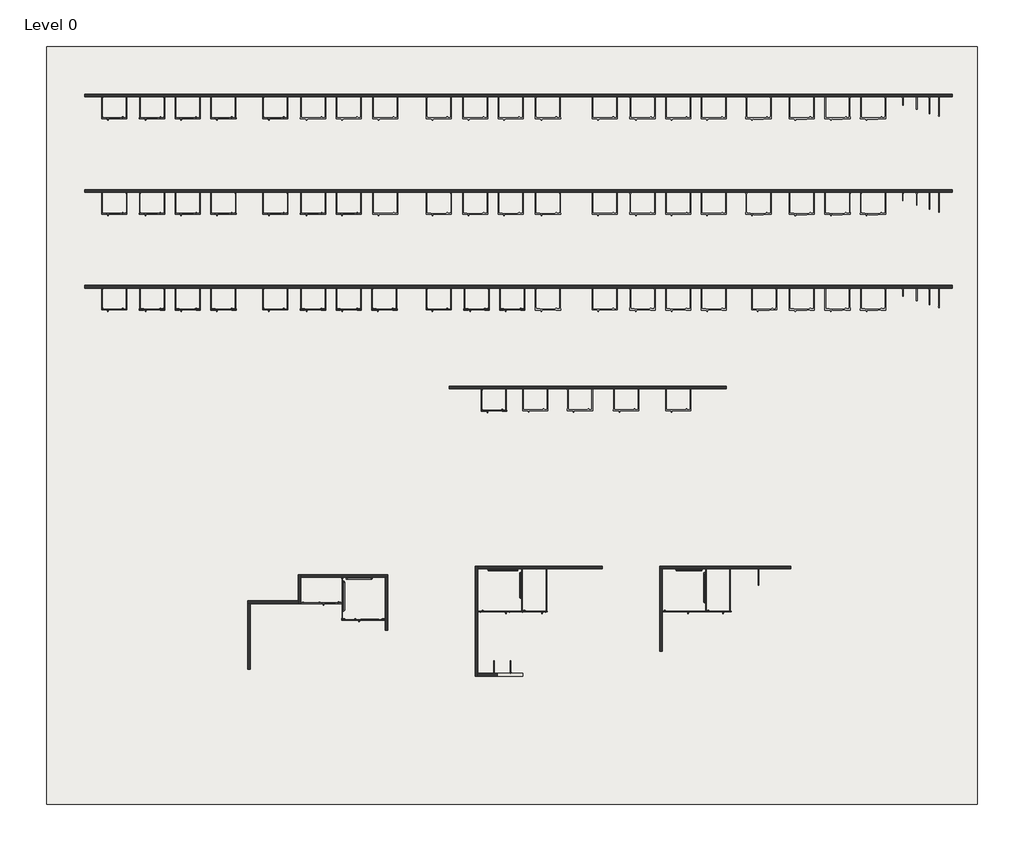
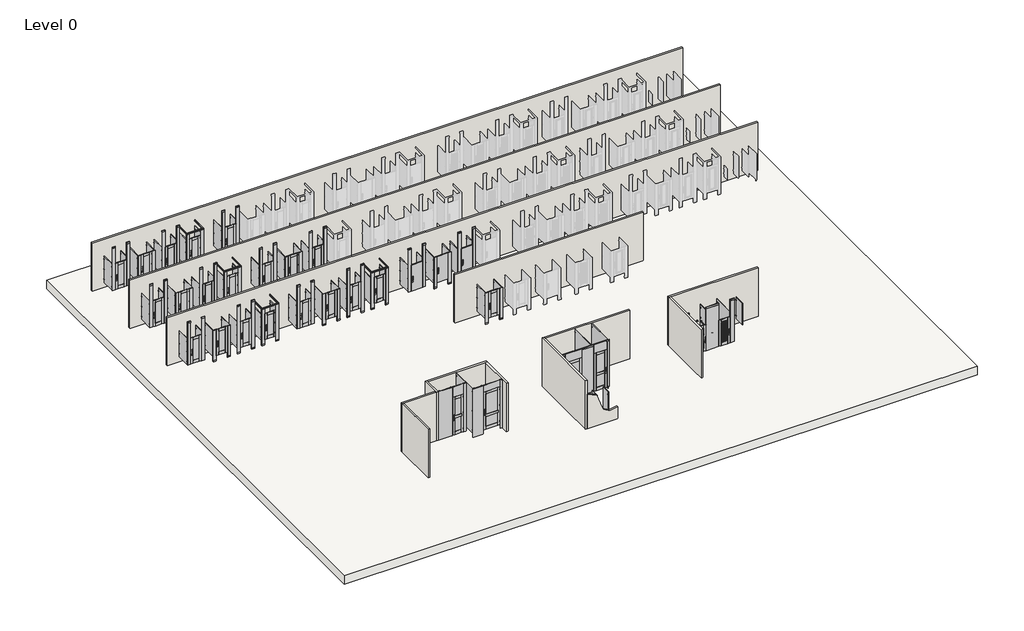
# One storey, part 1 of 2: 36 proxies, 14 walls, 1 slab.
"""IFC4 building model written with IfcOpenShell, lengths in millimetres."""

from ifc_helpers import new_model, si_unit, point, frame, frame_2d, origin, origin_with_axes, place, context, project, spatial, polyline, circle_curve, trimmed, segment, composite_curve, outline, extrude, faceted_brep, transform, mapped, element, save
from components import specialty_equipment_d96a6f38, specialty_equipment_1c9599e0, specialty_equipment_3137e77c, specialty_equipment_eb44fc01, compact_laminate_ceiling_hung_captured_panel_door_a59acb82, compact_laminate_ceiling_hung_door_lite_door_494fc37a, compact_laminate_floor_mounted_captured_panel_door_717636e4, compact_laminate_floor_mounted_door_lite_door_0cbb2f35, compact_laminate_floor_to_ceiling_captured_panel_door_38d99a87, compact_laminate_floor_to_ceiling_captured_panel_door_44a3a528, compact_laminate_floor_to_ceiling_captured_panel_door_c3280af2, compact_laminate_floor_to_ceiling_door_lite_door_47c44b2a, proxy_7e4ca562, grab_bar_grab_bar_8bd8c0e1, grab_bar_grab_bar_2_6b204c29, high_pressure_laminate_ceiling_hung_captured_panel_door_f9b3bd38, high_pressure_laminate_ceiling_hung_door_lite_door_4c4385df, high_pressure_laminate_ceiling_hung_louver_door_7c43876e, high_pressure_laminate_ceiling_hung_louver_door_24030e85, high_pressure_laminate_floor_mounted_captured_panel_door_a674d35c, urinal_partition_24x48_73d95201, high_pressure_laminate_ceiling_hung_flat_panel_door_457f9348, high_pressure_laminate_floor_mounted_door_lite_door_59ee385d, high_pressure_laminate_floor_mounted_flat_panel_door_f86224eb, specialty_equipment_fc4f7036, wood_veneer_floor_to_ceiling_door_lite_door_d23d4a8c, wood_veneer_floor_to_ceiling_door_lite_door_7aed59c0, specialty_equipment_aeacbdde

model = new_model("IFC4")

# Units and contexts
model_context = context("Model", 3, world=origin())
ifc_project = project(units=[si_unit("LENGTHUNIT", "METRE", prefix="MILLI")], contexts=[model_context])

# Site, building, storey
site = spatial("IfcSite", under=ifc_project)
building = spatial("IfcBuilding", under=site)
storey = spatial("IfcBuildingStorey", under=building, Name="Level 0", Elevation=0.0)

# Proxies
placement = place(None, origin())
specialty_equipment_shape = specialty_equipment_d96a6f38(model_context)
element("IfcBuildingElementProxy", 1, Name="Toilet-Partition_Ironwood-Mfg_High-Pressure-Laminate : High Pressure Laminate - Floor to Ceiling - Captured Panel Door", ObjectType="Toilet-Partition_Ironwood-Mfg_High-Pressure-Laminate : High Pressure Laminate - Floor to Ceiling - Captured Panel Door", at=placement, inside=storey, context=model_context, shape_type="MappedRepresentation", body=[
    mapped(specialty_equipment_shape, transform((-12139.1773474, 12246.3462325, 0.0), x_axis=(1.0, 0.0, 0.0), y_axis=(0.0, 1.0, 0.0), z_axis=(0.0, 0.0, 1.0))),
])
specialty_equipment_2_shape = specialty_equipment_1c9599e0(model_context)
element("IfcBuildingElementProxy", 2, Name="Toilet-Partition_Ironwood-Mfg_High-Pressure-Laminate : High Pressure Laminate - Headrail Braced - Captured Panel Door", ObjectType="Toilet-Partition_Ironwood-Mfg_High-Pressure-Laminate : High Pressure Laminate - Headrail Braced - Captured Panel Door", at=placement, inside=storey, context=model_context, shape_type="MappedRepresentation", body=[
    mapped(specialty_equipment_2_shape, transform((-10843.7773474, 12246.3462325, 0.0), x_axis=(1.0, 0.0, 0.0), y_axis=(0.0, 1.0, 0.0), z_axis=(0.0, 0.0, 1.0))),
])
specialty_equipment_3_shape = specialty_equipment_3137e77c(model_context)
element("IfcBuildingElementProxy", 3, Name="Toilet-Partition_Ironwood-Mfg_Compact-Laminate : Compact Laminate - Headrail Braced - Captured Panel Door", ObjectType="Toilet-Partition_Ironwood-Mfg_Compact-Laminate : Compact Laminate - Headrail Braced - Captured Panel Door", at=placement, inside=storey, context=model_context, shape_type="MappedRepresentation", body=[
    mapped(specialty_equipment_3_shape, transform((-10843.7773474, 8769.8462325, 0.0), x_axis=(1.0, 0.0, 0.0), y_axis=(0.0, 1.0, 0.0), z_axis=(0.0, 0.0, 1.0))),
])
specialty_equipment_4_shape = specialty_equipment_eb44fc01(model_context)
element("IfcBuildingElementProxy", 4, Name="Toilet-Partition_Ironwood-Mfg_Wood-Veneer : Wood Veneer - Headrail Braced - Door Lite Door", ObjectType="Toilet-Partition_Ironwood-Mfg_Wood-Veneer : Wood Veneer - Headrail Braced - Door Lite Door", at=placement, inside=storey, context=model_context, shape_type="MappedRepresentation", body=[
    mapped(specialty_equipment_4_shape, transform((-4989.3127178, 5293.3462325, 0.0), x_axis=(1.0, 0.0, 0.0), y_axis=(0.0, 1.0, 0.0), z_axis=(0.0, 0.0, 1.0))),
])
element("IfcBuildingElementProxy", 5, Name="Toilet-Partition_Ironwood-Mfg_Wood-Veneer : Wood Veneer - Headrail Braced - Captured Panel Door", ObjectType="Toilet-Partition_Ironwood-Mfg_Wood-Veneer : Wood Veneer - Headrail Braced - Captured Panel Door", at=placement, inside=storey, context=model_context, shape_type="MappedRepresentation", body=[
    mapped(specialty_equipment_2_shape, transform((-10843.7773474, 5293.3462325, 0.0), x_axis=(1.0, 0.0, 0.0), y_axis=(0.0, 1.0, 0.0), z_axis=(0.0, 0.0, 1.0))),
])
compact_laminate_ceiling_hung_captured_panel_door_shape = compact_laminate_ceiling_hung_captured_panel_door_a59acb82(model_context)
element("IfcBuildingElementProxy", 6, Name="Toilet-Partition_Ironwood-Mfg_Compact-Laminate : Compact Laminate - Ceiling Hung - Captured Panel Door", ObjectType="Toilet-Partition_Ironwood-Mfg_Compact-Laminate : Compact Laminate - Ceiling Hung - Captured Panel Door", at=placement, inside=storey, context=model_context, shape_type="MappedRepresentation", body=[
    mapped(compact_laminate_ceiling_hung_captured_panel_door_shape, transform((-14806.1773474, 8769.8462325, 0.0), x_axis=(1.0, 0.0, 0.0), y_axis=(0.0, 1.0, 0.0), z_axis=(0.0, 0.0, 1.0))),
])
compact_laminate_ceiling_hung_door_lite_door_shape = compact_laminate_ceiling_hung_door_lite_door_494fc37a(model_context)
element("IfcBuildingElementProxy", 7, Name="Toilet-Partition_Ironwood-Mfg_Compact-Laminate : Compact Laminate - Ceiling Hung - Door Lite Door", ObjectType="Toilet-Partition_Ironwood-Mfg_Compact-Laminate : Compact Laminate - Ceiling Hung - Door Lite Door", at=placement, inside=storey, context=model_context, shape_type="MappedRepresentation", body=[
    mapped(compact_laminate_ceiling_hung_door_lite_door_shape, transform((-8951.7127178, 8769.8462325, 0.0), x_axis=(1.0, 0.0, 0.0), y_axis=(0.0, 1.0, 0.0), z_axis=(0.0, 0.0, 1.0))),
])
compact_laminate_floor_mounted_captured_panel_door_shape = compact_laminate_floor_mounted_captured_panel_door_717636e4(model_context)
element("IfcBuildingElementProxy", 8, Name="Toilet-Partition_Ironwood-Mfg_Compact-Laminate : Compact Laminate - Floor Mounted - Captured Panel Door", ObjectType="Toilet-Partition_Ironwood-Mfg_Compact-Laminate : Compact Laminate - Floor Mounted - Captured Panel Door", at=placement, inside=storey, context=model_context, shape_type="MappedRepresentation", body=[
    mapped(compact_laminate_floor_mounted_captured_panel_door_shape, transform((-13434.5773474, 8769.8462325, 0.0), x_axis=(1.0, 0.0, 0.0), y_axis=(0.0, 1.0, 0.0), z_axis=(0.0, 0.0, 1.0))),
])
compact_laminate_floor_mounted_door_lite_door_shape = compact_laminate_floor_mounted_door_lite_door_0cbb2f35(model_context)
element("IfcBuildingElementProxy", 9, Name="Toilet-Partition_Ironwood-Mfg_Compact-Laminate : Compact Laminate - Floor Mounted - Door Lite Door", ObjectType="Toilet-Partition_Ironwood-Mfg_Compact-Laminate : Compact Laminate - Floor Mounted - Door Lite Door", at=placement, inside=storey, context=model_context, shape_type="MappedRepresentation", body=[
    mapped(compact_laminate_floor_mounted_door_lite_door_shape, transform((-7580.1127178, 8769.8462325, 0.0), x_axis=(1.0, 0.0, 0.0), y_axis=(0.0, 1.0, 0.0), z_axis=(0.0, 0.0, 1.0))),
])
compact_laminate_floor_to_ceiling_captured_panel_door_shape = compact_laminate_floor_to_ceiling_captured_panel_door_38d99a87(model_context)
element("IfcBuildingElementProxy", 10, Name="Toilet-Partition_Ironwood-Mfg_Compact-Laminate : Compact Laminate - Floor to Ceiling - Captured Panel Door", ObjectType="Toilet-Partition_Ironwood-Mfg_Compact-Laminate : Compact Laminate - Floor to Ceiling - Captured Panel Door", at=placement, inside=storey, context=model_context, shape_type="MappedRepresentation", body=[
    mapped(compact_laminate_floor_to_ceiling_captured_panel_door_shape, transform((-12139.1773474, 8769.8462325, 0.0), x_axis=(1.0, 0.0, 0.0), y_axis=(0.0, 1.0, 0.0), z_axis=(0.0, 0.0, 1.0))),
])
compact_laminate_floor_to_ceiling_captured_panel_door_2_shape = compact_laminate_floor_to_ceiling_captured_panel_door_44a3a528(model_context)
element("IfcBuildingElementProxy", 11, Name="Toilet-Partition_Ironwood-Mfg_Compact-Laminate : Compact Laminate - Floor to Ceiling - Captured Panel Door", ObjectType="Toilet-Partition_Ironwood-Mfg_Compact-Laminate : Compact Laminate - Floor to Ceiling - Captured Panel Door", at=placement, inside=storey, context=model_context, shape_type="MappedRepresentation", body=[
    mapped(compact_laminate_floor_to_ceiling_captured_panel_door_2_shape, transform((-6963.4594549, -5210.1151026, 0.0), x_axis=(1.0, 0.0, 0.0), y_axis=(0.0, 1.0, 0.0), z_axis=(0.0, 0.0, 1.0))),
])
compact_laminate_floor_to_ceiling_captured_panel_door_3_shape = compact_laminate_floor_to_ceiling_captured_panel_door_c3280af2(model_context)
element("IfcBuildingElementProxy", 12, Name="Toilet-Partition_Ironwood-Mfg_Compact-Laminate : Compact Laminate - Floor to Ceiling - Captured Panel Door", ObjectType="Toilet-Partition_Ironwood-Mfg_Compact-Laminate : Compact Laminate - Floor to Ceiling - Captured Panel Door", at=placement, inside=storey, context=model_context, shape_type="MappedRepresentation", body=[
    mapped(compact_laminate_floor_to_ceiling_captured_panel_door_3_shape, transform((-5515.6594549, -5232.5901026, 0.0), x_axis=(1.0, 0.0, 0.0), y_axis=(0.0, 1.0, 0.0), z_axis=(0.0, 0.0, 1.0))),
])
compact_laminate_floor_to_ceiling_door_lite_door_shape = compact_laminate_floor_to_ceiling_door_lite_door_47c44b2a(model_context)
element("IfcBuildingElementProxy", 13, Name="Toilet-Partition_Ironwood-Mfg_Compact-Laminate : Compact Laminate - Floor to Ceiling - Door Lite Door", ObjectType="Toilet-Partition_Ironwood-Mfg_Compact-Laminate : Compact Laminate - Floor to Ceiling - Door Lite Door", at=placement, inside=storey, context=model_context, shape_type="MappedRepresentation", body=[
    mapped(compact_laminate_floor_to_ceiling_door_lite_door_shape, transform((-6284.7127178, 8769.8462325, 0.0), x_axis=(1.0, 0.0, 0.0), y_axis=(0.0, 1.0, 0.0), z_axis=(0.0, 0.0, 1.0))),
])
proxy_shape = proxy_7e4ca562(model_context)
element("IfcBuildingElementProxy", 14, Name="Urinal-Partition_Ironwood-Mfg : Custom - 18\" x 60\"", ObjectType="Urinal-Partition_Ironwood-Mfg : Custom - 18\" x 60\"", at=placement, inside=storey, context=model_context, shape_type="MappedRepresentation", body=[
    mapped(proxy_shape, transform((-766.3614549, -8718.6151026, 0.0), x_axis=(-1.0, 0.0, 0.0), y_axis=(0.0, 0.0, 1.0), z_axis=(0.0, 1.0, 0.0))),
])
element("IfcBuildingElementProxy", 15, Name="Urinal-Partition_Ironwood-Mfg : Custom - 18\" x 60\"", ObjectType="Urinal-Partition_Ironwood-Mfg : Custom - 18\" x 60\"", at=placement, inside=storey, context=model_context, shape_type="MappedRepresentation", body=[
    mapped(proxy_shape, transform((-156.7614549, -8718.6151026, 0.0), x_axis=(-1.0, 0.0, 0.0), y_axis=(0.0, 0.0, 1.0), z_axis=(0.0, 1.0, 0.0))),
])
grab_bar_grab_bar_shape = grab_bar_grab_bar_8bd8c0e1(model_context)
element("IfcBuildingElementProxy", 16, Name="Grab Bar : Grab Bar", ObjectType="Grab Bar : Grab Bar", at=placement, inside=storey, context=model_context, shape_type="MappedRepresentation", body=[
    mapped(grab_bar_grab_bar_shape, transform((-6274.4844549, -5216.7151026, 0.0), x_axis=(-1.0, 0.0, 0.0), y_axis=(0.0, -1.0, 0.0), z_axis=(0.0, 0.0, 1.0))),
])
element("IfcBuildingElementProxy", 17, Name="Grab Bar : Grab Bar", ObjectType="Grab Bar : Grab Bar", at=placement, inside=storey, context=model_context, shape_type="MappedRepresentation", body=[
    mapped(grab_bar_grab_bar_shape, transform((243.4155451, -4908.6151026, 0.0), x_axis=(0.0, 1.0, 0.0), y_axis=(-1.0, 0.0, 0.0), z_axis=(0.0, 0.0, 1.0))),
])
grab_bar_grab_bar_2_shape = grab_bar_grab_bar_2_6b204c29(model_context)
element("IfcBuildingElementProxy", 18, Name="Grab Bar : Grab Bar 2", ObjectType="Grab Bar : Grab Bar 2", at=placement, inside=storey, context=model_context, shape_type="MappedRepresentation", body=[
    mapped(grab_bar_grab_bar_2_shape, transform((6936.0615451, -4908.6151026, 0.0), x_axis=(0.0, 1.0, 0.0), y_axis=(-1.0, 0.0, 0.0), z_axis=(0.0, 0.0, 1.0))),
])
high_pressure_laminate_ceiling_hung_captured_panel_door_shape = high_pressure_laminate_ceiling_hung_captured_panel_door_f9b3bd38(model_context)
element("IfcBuildingElementProxy", 19, Name="Toilet-Partition_Ironwood-Mfg_High-Pressure-Laminate : High Pressure Laminate - Ceiling Hung - Captured Panel Door", ObjectType="Toilet-Partition_Ironwood-Mfg_High-Pressure-Laminate : High Pressure Laminate - Ceiling Hung - Captured Panel Door", at=placement, inside=storey, context=model_context, shape_type="MappedRepresentation", body=[
    mapped(high_pressure_laminate_ceiling_hung_captured_panel_door_shape, transform((-14806.1773474, 12246.3462325, 0.0), x_axis=(1.0, 0.0, 0.0), y_axis=(0.0, 1.0, 0.0), z_axis=(0.0, 0.0, 1.0))),
])
high_pressure_laminate_ceiling_hung_door_lite_door_shape = high_pressure_laminate_ceiling_hung_door_lite_door_4c4385df(model_context)
element("IfcBuildingElementProxy", 20, Name="Toilet-Partition_Ironwood-Mfg_High-Pressure-Laminate : High Pressure Laminate - Ceiling Hung - Door Lite Door", ObjectType="Toilet-Partition_Ironwood-Mfg_High-Pressure-Laminate : High Pressure Laminate - Ceiling Hung - Door Lite Door", at=placement, inside=storey, context=model_context, shape_type="MappedRepresentation", body=[
    mapped(high_pressure_laminate_ceiling_hung_door_lite_door_shape, transform((-8951.7127178, 12246.3462325, 0.0), x_axis=(1.0, 0.0, 0.0), y_axis=(0.0, 1.0, 0.0), z_axis=(0.0, 0.0, 1.0))),
])
high_pressure_laminate_ceiling_hung_louver_door_shape = high_pressure_laminate_ceiling_hung_louver_door_7c43876e(model_context)
element("IfcBuildingElementProxy", 21, Name="Toilet-Partition_Ironwood-Mfg_High-Pressure-Laminate : High Pressure Laminate - Ceiling Hung - Louver Door", ObjectType="Toilet-Partition_Ironwood-Mfg_High-Pressure-Laminate : High Pressure Laminate - Ceiling Hung - Louver Door", at=placement, inside=storey, context=model_context, shape_type="MappedRepresentation", body=[
    mapped(high_pressure_laminate_ceiling_hung_louver_door_shape, transform((7568.0135451, -4924.4901026, 0.0), x_axis=(-1.0, 0.0, 0.0), y_axis=(0.0, -1.0, 0.0), z_axis=(0.0, 0.0, 1.0))),
])
high_pressure_laminate_ceiling_hung_louver_door_2_shape = high_pressure_laminate_ceiling_hung_louver_door_24030e85(model_context)
element("IfcBuildingElementProxy", 22, Name="Toilet-Partition_Ironwood-Mfg_High-Pressure-Laminate : High Pressure Laminate - Ceiling Hung - Louver Door", ObjectType="Toilet-Partition_Ironwood-Mfg_High-Pressure-Laminate : High Pressure Laminate - Ceiling Hung - Louver Door", at=placement, inside=storey, context=model_context, shape_type="MappedRepresentation", body=[
    mapped(high_pressure_laminate_ceiling_hung_louver_door_2_shape, transform((6145.6135451, -4924.4901026, 0.0), x_axis=(-1.0, 0.0, 0.0), y_axis=(0.0, -1.0, 0.0), z_axis=(0.0, 0.0, 1.0))),
])
high_pressure_laminate_floor_mounted_captured_panel_door_shape = high_pressure_laminate_floor_mounted_captured_panel_door_a674d35c(model_context)
element("IfcBuildingElementProxy", 23, Name="Toilet-Partition_Ironwood-Mfg_High-Pressure-Laminate : High Pressure Laminate - Floor Mounted - Captured Panel Door", ObjectType="Toilet-Partition_Ironwood-Mfg_High-Pressure-Laminate : High Pressure Laminate - Floor Mounted - Captured Panel Door", at=placement, inside=storey, context=model_context, shape_type="MappedRepresentation", body=[
    mapped(high_pressure_laminate_floor_mounted_captured_panel_door_shape, transform((-13434.5773474, 12246.3462325, 0.0), x_axis=(1.0, 0.0, 0.0), y_axis=(0.0, 1.0, 0.0), z_axis=(0.0, 0.0, 1.0))),
])
urinal_partition_24x48_shape = urinal_partition_24x48_73d95201(model_context)
element("IfcBuildingElementProxy", 24, Name="Urinal-Partition_Ironwood-Mfg : Urinal Partition - 24x48", ObjectType="Urinal-Partition_Ironwood-Mfg : Urinal Partition - 24x48", at=placement, inside=storey, context=model_context, shape_type="MappedRepresentation", body=[
    mapped(urinal_partition_24x48_shape, transform((8855.6010451, -4908.6151026, 0.0), x_axis=(1.0, 0.0, 0.0), y_axis=(0.0, 0.0, 1.0), z_axis=(0.0, -1.0, 0.0))),
])
element("IfcBuildingElementProxy", 25, Name="Toilet-Partition_Ironwood-Mfg_Wood-Veneer : Wood Veneer - Ceiling Hung - Captured Panel Door", ObjectType="Toilet-Partition_Ironwood-Mfg_Wood-Veneer : Wood Veneer - Ceiling Hung - Captured Panel Door", at=placement, inside=storey, context=model_context, shape_type="MappedRepresentation", body=[
    mapped(high_pressure_laminate_ceiling_hung_captured_panel_door_shape, transform((-14806.1773474, 5293.3462325, 0.0), x_axis=(1.0, 0.0, 0.0), y_axis=(0.0, 1.0, 0.0), z_axis=(0.0, 0.0, 1.0))),
])
element("IfcBuildingElementProxy", 26, Name="Toilet-Partition_Ironwood-Mfg_Wood-Veneer : Wood Veneer - Ceiling Hung - Door Lite Door", ObjectType="Toilet-Partition_Ironwood-Mfg_Wood-Veneer : Wood Veneer - Ceiling Hung - Door Lite Door", at=placement, inside=storey, context=model_context, shape_type="MappedRepresentation", body=[
    mapped(high_pressure_laminate_ceiling_hung_door_lite_door_shape, transform((-8951.7127178, 5293.3462325, 0.0), x_axis=(1.0, 0.0, 0.0), y_axis=(0.0, 1.0, 0.0), z_axis=(0.0, 0.0, 1.0))),
])
high_pressure_laminate_ceiling_hung_flat_panel_door_shape = high_pressure_laminate_ceiling_hung_flat_panel_door_457f9348(model_context)
element("IfcBuildingElementProxy", 27, Name="Toilet-Partition_Ironwood-Mfg_Wood-Veneer : Wood Veneer - Ceiling Hung - Flat Panel Door", ObjectType="Toilet-Partition_Ironwood-Mfg_Wood-Veneer : Wood Veneer - Ceiling Hung - Flat Panel Door", at=placement, inside=storey, context=model_context, shape_type="MappedRepresentation", body=[
    mapped(high_pressure_laminate_ceiling_hung_flat_panel_door_shape, transform((-3008.1127178, 5293.3462325, 0.0), x_axis=(1.0, 0.0, 0.0), y_axis=(0.0, 1.0, 0.0), z_axis=(0.0, 0.0, 1.0))),
])
element("IfcBuildingElementProxy", 28, Name="Toilet-Partition_Ironwood-Mfg_Wood-Veneer : Wood Veneer - Floor Mounted - Captured Panel Door", ObjectType="Toilet-Partition_Ironwood-Mfg_Wood-Veneer : Wood Veneer - Floor Mounted - Captured Panel Door", at=placement, inside=storey, context=model_context, shape_type="MappedRepresentation", body=[
    mapped(high_pressure_laminate_floor_mounted_captured_panel_door_shape, transform((-13434.5773474, 5293.3462325, 0.0), x_axis=(1.0, 0.0, 0.0), y_axis=(0.0, 1.0, 0.0), z_axis=(0.0, 0.0, 1.0))),
])
element("IfcBuildingElementProxy", 29, Name="Toilet-Partition_Ironwood-Mfg_Wood-Veneer : Wood Veneer - Floor Mounted - Captured Panel Door", ObjectType="Toilet-Partition_Ironwood-Mfg_Wood-Veneer : Wood Veneer - Floor Mounted - Captured Panel Door", at=placement, inside=storey, context=model_context, shape_type="MappedRepresentation", body=[
    mapped(high_pressure_laminate_floor_mounted_captured_panel_door_shape, transform((-1007.6614549, 1619.8712325, 0.0), x_axis=(1.0, 0.0, 0.0), y_axis=(0.0, 1.0, 0.0), z_axis=(0.0, 0.0, 1.0))),
])
high_pressure_laminate_floor_mounted_door_lite_door_shape = high_pressure_laminate_floor_mounted_door_lite_door_59ee385d(model_context)
element("IfcBuildingElementProxy", 30, Name="Toilet-Partition_Ironwood-Mfg_Wood-Veneer : Wood Veneer - Floor Mounted - Door Lite Door", ObjectType="Toilet-Partition_Ironwood-Mfg_Wood-Veneer : Wood Veneer - Floor Mounted - Door Lite Door", at=placement, inside=storey, context=model_context, shape_type="MappedRepresentation", body=[
    mapped(high_pressure_laminate_floor_mounted_door_lite_door_shape, transform((-7580.1127178, 5293.3462325, 0.0), x_axis=(1.0, 0.0, 0.0), y_axis=(0.0, 1.0, 0.0), z_axis=(0.0, 0.0, 1.0))),
])
high_pressure_laminate_floor_mounted_flat_panel_door_shape = high_pressure_laminate_floor_mounted_flat_panel_door_f86224eb(model_context)
element("IfcBuildingElementProxy", 31, Name="Toilet-Partition_Ironwood-Mfg_Wood-Veneer : Wood Veneer - Floor Mounted - Flat Panel Door", ObjectType="Toilet-Partition_Ironwood-Mfg_Wood-Veneer : Wood Veneer - Floor Mounted - Flat Panel Door", at=placement, inside=storey, context=model_context, shape_type="MappedRepresentation", body=[
    mapped(high_pressure_laminate_floor_mounted_flat_panel_door_shape, transform((-1636.5127178, 5293.3462325, 0.0), x_axis=(1.0, 0.0, 0.0), y_axis=(0.0, 1.0, 0.0), z_axis=(0.0, 0.0, 1.0))),
])
element("IfcBuildingElementProxy", 32, Name="Toilet-Partition_Ironwood-Mfg_Wood-Veneer : Wood Veneer - Floor to Ceiling - Captured Panel Door", ObjectType="Toilet-Partition_Ironwood-Mfg_Wood-Veneer : Wood Veneer - Floor to Ceiling - Captured Panel Door", at=placement, inside=storey, context=model_context, shape_type="MappedRepresentation", body=[
    mapped(specialty_equipment_shape, transform((-12139.1773474, 5293.3462325, 0.0), x_axis=(1.0, 0.0, 0.0), y_axis=(0.0, 1.0, 0.0), z_axis=(0.0, 0.0, 1.0))),
])
specialty_equipment_5_shape = specialty_equipment_fc4f7036(model_context)
element("IfcBuildingElementProxy", 33, Name="Toilet-Partition_Ironwood-Mfg_Wood-Veneer : Wood Veneer - Floor to Ceiling - Door Lite Door", ObjectType="Toilet-Partition_Ironwood-Mfg_Wood-Veneer : Wood Veneer - Floor to Ceiling - Door Lite Door", at=placement, inside=storey, context=model_context, shape_type="MappedRepresentation", body=[
    mapped(specialty_equipment_5_shape, transform((-6284.7127178, 5293.3462325, 0.0), x_axis=(1.0, 0.0, 0.0), y_axis=(0.0, 1.0, 0.0), z_axis=(0.0, 0.0, 1.0))),
])
wood_veneer_floor_to_ceiling_door_lite_door_shape = wood_veneer_floor_to_ceiling_door_lite_door_d23d4a8c(model_context)
element("IfcBuildingElementProxy", 34, Name="Toilet-Partition_Ironwood-Mfg_Wood-Veneer : Wood Veneer - Floor to Ceiling - Door Lite Door", ObjectType="Toilet-Partition_Ironwood-Mfg_Wood-Veneer : Wood Veneer - Floor to Ceiling - Door Lite Door", at=placement, inside=storey, context=model_context, shape_type="MappedRepresentation", body=[
    mapped(wood_veneer_floor_to_ceiling_door_lite_door_shape, transform((-483.7864549, -4924.4901026, 0.0), x_axis=(-1.0, 0.0, 0.0), y_axis=(0.0, -1.0, 0.0), z_axis=(0.0, 0.0, 1.0))),
])
wood_veneer_floor_to_ceiling_door_lite_door_2_shape = wood_veneer_floor_to_ceiling_door_lite_door_7aed59c0(model_context)
element("IfcBuildingElementProxy", 35, Name="Toilet-Partition_Ironwood-Mfg_Wood-Veneer : Wood Veneer - Floor to Ceiling - Door Lite Door", ObjectType="Toilet-Partition_Ironwood-Mfg_Wood-Veneer : Wood Veneer - Floor to Ceiling - Door Lite Door", at=placement, inside=storey, context=model_context, shape_type="MappedRepresentation", body=[
    mapped(wood_veneer_floor_to_ceiling_door_lite_door_2_shape, transform((938.6135451, -4924.4901026, 0.0), x_axis=(-1.0, 0.0, 0.0), y_axis=(0.0, -1.0, 0.0), z_axis=(0.0, 0.0, 1.0))),
])
specialty_equipment_6_shape = specialty_equipment_aeacbdde(model_context)
element("IfcBuildingElementProxy", 36, Name="Toilet-Partition_Ironwood-Mfg_Wood-Veneer : Wood Veneer - Floor to Ceiling - Flat Panel Door", ObjectType="Toilet-Partition_Ironwood-Mfg_Wood-Veneer : Wood Veneer - Floor to Ceiling - Flat Panel Door", at=placement, inside=storey, context=model_context, shape_type="MappedRepresentation", body=[
    mapped(specialty_equipment_6_shape, transform((-341.1127178, 5293.3462325, 0.0), x_axis=(1.0, 0.0, 0.0), y_axis=(0.0, 1.0, 0.0), z_axis=(0.0, 0.0, 1.0))),
])

# Slab
element("IfcSlab", 37, ObjectType="Floor-Grnd-Susp_65Scr-80Ins-100Blk-75PC", at=placement, inside=storey, context=model_context, shape_type="SweptSolid", body=[
    extrude(outline(polyline([(16813.6476526, 14075.1462325), (16813.6476526, -13471.7151026), (-17031.2614549, -13471.7151026), (-17031.2614549, 14075.1462325), (16813.6476526, 14075.1462325)])), frame((0.0, 0.0, -470.0), z_axis=(0.0, 0.0, 1.0), x_axis=(1.0, 0.0, 0.0)), (0.0, 0.0, 1.0), 470.0),
])

# Walls
element("IfcWall", 38, ObjectType="Wall-Partn_12P-70MStd-12P", at=placement, inside=storey, context=model_context, shape_type="SweptSolid", body=[
    extrude(outline(polyline([(15902.1872822, 5293.3462325), (-15644.6127178, 5293.3462325), (-15644.6127178, 5388.3462325), (15902.1872822, 5388.3462325), (15902.1872822, 5293.3462325)])), origin_with_axes(), (0.0, 0.0, 1.0), 2729.1109375),
])
element("IfcWall", 39, ObjectType="Wall-Partn_12P-70MStd-12P", at=placement, inside=storey, context=model_context, shape_type="SweptSolid", body=[
    extrude(outline(polyline([(7672.5872822, 1635.7462325), (-2385.8127178, 1635.7462325), (-2385.8127178, 1730.7462325), (7672.5872822, 1730.7462325), (7672.5872822, 1635.7462325)])), origin_with_axes(), (0.0, 0.0, 1.0), 2729.1212853),
])
element("IfcWall", 40, ObjectType="Wall-Partn_12P-70MStd-12P", at=placement, inside=storey, context=model_context, shape_type="Brep", body=[
    faceted_brep([(-7887.2614549, -5121.7151026, 0.0), (-7887.2614549, -6080.3151026, 0.0), (-7887.2614549, -6175.3151026, 0.0), (-7887.2614549, -6175.3151026, 2743.2), (-7887.2614549, -6080.3151026, 2743.2), (-7887.2614549, -5121.7151026, 2743.2), (-7792.2614549, -5121.7151026, 0.0), (-7792.2614549, -5121.7151026, 2743.2), (-7792.2614549, -5216.7151026, 2743.2), (-7792.2614549, -6175.3151026, 2743.2), (-7792.2614549, -6175.3151026, 0.0), (-7792.2614549, -5216.7151026, 0.0)], [[[0, 1, 2, 3, 4, 5]], [[6, 7, 8, 9, 10, 11]], [[2, 1, 0, 6, 11, 10]], [[5, 4, 3, 9, 8, 7]], [[0, 5, 7, 6]], [[3, 2, 10, 9]]]),
])
element("IfcWall", 41, ObjectType="Wall-Partn_12P-70MStd-12P", at=placement, inside=storey, context=model_context, shape_type="Brep", body=[
    faceted_brep([(-7792.2614549, -5216.7151026, 0.0), (-4718.8614549, -5216.7151026, 0.0), (-4623.8614549, -5216.7151026, 0.0), (-4623.8614549, -5216.7151026, 2743.2), (-4718.8614549, -5216.7151026, 2743.2), (-7792.2614549, -5216.7151026, 2743.2), (-7792.2614549, -5121.7151026, 0.0), (-7792.2614549, -5121.7151026, 2743.2), (-4623.8614549, -5121.7151026, 2743.2), (-4623.8614549, -5121.7151026, 0.0)], [[[0, 1, 2, 3, 4, 5]], [[6, 7, 8, 9]], [[2, 1, 0, 6, 9]], [[5, 4, 3, 8, 7]], [[0, 5, 7, 6]], [[3, 2, 9, 8]]]),
])
element("IfcWall", 42, ObjectType="Wall-Partn_12P-70MStd-12P", at=placement, inside=storey, context=model_context, shape_type="SweptSolid", body=[
    extrude(outline(polyline([(3173.9385451, -4908.6151026), (-1350.5614549, -4908.6151026), (-1350.5614549, -4813.6151026), (3173.9385451, -4813.6151026), (3173.9385451, -4908.6151026)])), origin_with_axes(), (0.0, 0.0, 1.0), 2743.2),
])
element("IfcWall", 43, ObjectType="Wall-Partn_12P-70MStd-12P", at=placement, inside=storey, context=model_context, shape_type="Brep", body=[
    faceted_brep([(-1445.5614549, -4813.6151026, 0.0), (-1445.5614549, -8813.6151026, 0.0), (-1445.5614549, -8813.6151026, 2743.2), (-1445.5614549, -4813.6151026, 2743.2), (-1350.5614549, -4813.6151026, 0.0), (-1350.5614549, -4813.6151026, 2743.2), (-1350.5614549, -4908.6151026, 2743.2), (-1350.5614549, -8813.6151026, 2743.2), (-1350.5614549, -8813.6151026, 1947.5127298), (-1350.5614549, -8813.6151026, 0.0), (-1350.5614549, -8718.6151026, 0.0), (-1350.5614549, -4908.6151026, 0.0)], [[[0, 1, 2, 3]], [[4, 5, 6, 7, 8, 9, 10, 11]], [[1, 0, 4, 11, 10, 9]], [[3, 2, 7, 6, 5]], [[0, 3, 5, 4]], [[2, 1, 9, 8, 7]]]),
])
element("IfcWall", 44, ObjectType="Wall-Partn_12P-70MStd-12P", at=placement, inside=storey, context=model_context, shape_type="SweptSolid", body=[
    extrude(outline(composite_curve([segment(polyline([(0.0, -1350.5614549), (0.0, 278.3385451), (662.3174956, 278.3385451)]), True, "CONTINUOUS"), segment(trimmed(circle_curve(frame_2d((1194.6682106, -29.0142835)), 614.7056572), [point((662.3174956, 278.3385451))], [point((1194.6682106, -643.7199407))], True, "CARTESIAN"), True, "CONTINUOUS"), segment(trimmed(circle_curve(frame_2d((1194.6682106, -1398.0614549)), 754.3415142), [point((1194.6682106, -643.7199407))], [point((1947.5127298, -1350.5614549))], False, "CARTESIAN"), True, "CONTINUOUS"), segment(polyline([(1947.5127298, -1350.5614549), (0.0, -1350.5614549)]), True, "CONTINUOUS")], self_intersect=False)), frame((0.0, -8813.6151026, 0.0), z_axis=(0.0, 1.0, 0.0), x_axis=(0.0, 0.0, 1.0)), (0.0, 0.0, 1.0), 95.0),
])
element("IfcWall", 45, ObjectType="Wall-Partn_12P-70MStd-12P", at=placement, inside=storey, context=model_context, shape_type="Brep", body=[
    faceted_brep([(5260.0385451, -4908.6151026, 0.0), (5355.0385451, -4908.6151026, 0.0), (10031.9385451, -4908.6151026, 0.0), (10031.9385451, -4908.6151026, 2743.2), (5355.0385451, -4908.6151026, 2743.2), (5260.0385451, -4908.6151026, 2743.2), (5260.0385451, -4813.6151026, 0.0), (5260.0385451, -4813.6151026, 2743.2), (10031.9385451, -4813.6151026, 2743.2), (10031.9385451, -4813.6151026, 0.0)], [[[0, 1, 2, 3, 4, 5]], [[6, 7, 8, 9]], [[2, 1, 0, 6, 9]], [[3, 2, 9, 8]], [[5, 4, 3, 8, 7]], [[0, 5, 7, 6]]]),
])
element("IfcWall", 46, ObjectType="Wall-Partn_12P-70MStd-12P", at=placement, inside=storey, context=model_context, shape_type="SweptSolid", body=[
    extrude(outline(polyline([(5260.0385451, -7909.1151026), (5260.0385451, -4908.6151026), (5355.0385451, -4908.6151026), (5355.0385451, -7909.1151026), (5260.0385451, -7909.1151026)])), origin_with_axes(), (0.0, 0.0, 1.0), 2743.2),
])
element("IfcWall", 47, ObjectType="Wall-Partn_12P-70MStd-12P", at=placement, inside=storey, context=model_context, shape_type="Brep", body=[
    faceted_brep([(-7887.2614549, -6080.3151026, 0.0), (-9716.0614549, -6080.3151026, 0.0), (-9716.0614549, -6080.3151026, 2743.2), (-7887.2614549, -6080.3151026, 2743.2), (-7887.2614549, -6175.3151026, 0.0), (-7887.2614549, -6175.3151026, 2743.2), (-9621.0614549, -6175.3151026, 2743.2), (-9716.0614549, -6175.3151026, 2743.2), (-9716.0614549, -6175.3151026, 0.0), (-9621.0614549, -6175.3151026, 0.0)], [[[0, 1, 2, 3]], [[4, 5, 6, 7, 8, 9]], [[1, 0, 4, 9, 8]], [[3, 2, 7, 6, 5]], [[2, 1, 8, 7]], [[0, 3, 5, 4]]]),
])
element("IfcWall", 48, ObjectType="Wall-Partn_12P-70MStd-12P", at=placement, inside=storey, context=model_context, shape_type="SweptSolid", body=[
    extrude(outline(polyline([(-9716.0614549, -8566.2151026), (-9716.0614549, -6175.3151026), (-9621.0614549, -6175.3151026), (-9621.0614549, -8566.2151026), (-9716.0614549, -8566.2151026)])), origin_with_axes(), (0.0, 0.0, 1.0), 2743.2),
])
element("IfcWall", 49, ObjectType="Wall-Partn_12P-70MStd-12P", at=placement, inside=storey, context=model_context, shape_type="SweptSolid", body=[
    extrude(outline(polyline([(-4718.8614549, -7150.4151026), (-4718.8614549, -5216.7151026), (-4623.8614549, -5216.7151026), (-4623.8614549, -7150.4151026), (-4718.8614549, -7150.4151026)])), origin_with_axes(), (0.0, 0.0, 1.0), 2743.2),
])
element("IfcWall", 50, ObjectType="Wall-Partn_12P-70MStd-12P", at=placement, inside=storey, context=model_context, shape_type="SweptSolid", body=[
    extrude(outline(polyline([(15902.1872822, 8769.8462325), (-15644.6127178, 8769.8462325), (-15644.6127178, 8864.8462325), (15902.1872822, 8864.8462325), (15902.1872822, 8769.8462325)])), origin_with_axes(), (0.0, 0.0, 1.0), 2729.1109375),
])
element("IfcWall", 51, ObjectType="Wall-Partn_12P-70MStd-12P", at=placement, inside=storey, context=model_context, shape_type="SweptSolid", body=[
    extrude(outline(polyline([(15902.1872822, 12246.3462325), (-15644.6127178, 12246.3462325), (-15644.6127178, 12341.3462325), (15902.1872822, 12341.3462325), (15902.1872822, 12246.3462325)])), origin_with_axes(), (0.0, 0.0, 1.0), 2729.1109375),
])

save(model, "model.ifc")
